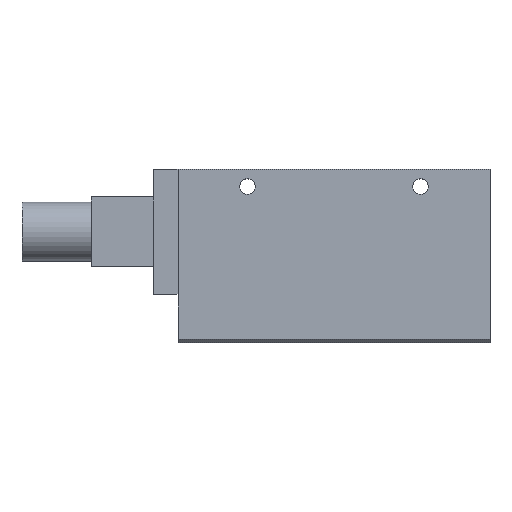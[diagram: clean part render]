
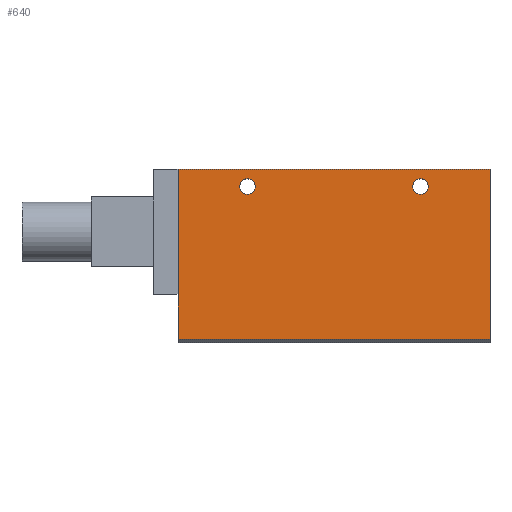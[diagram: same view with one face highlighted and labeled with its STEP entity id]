
A CAD part, top view. The second image highlights one B-rep face of the part: STEP entity #640.
In plain terms, the highlighted planar face has unit normal (0, 0, 1).
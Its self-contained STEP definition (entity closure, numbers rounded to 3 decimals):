
#26=FACE_BOUND('',#121,.T.);
#27=FACE_BOUND('',#122,.T.);
#36=PLANE('',#707);
#76=FACE_OUTER_BOUND('',#120,.T.);
#120=EDGE_LOOP('',(#494,#495,#496,#497));
#121=EDGE_LOOP('',(#498));
#122=EDGE_LOOP('',(#499));
#166=LINE('',#967,#241);
#169=LINE('',#973,#244);
#171=LINE('',#977,#246);
#172=LINE('',#978,#247);
#241=VECTOR('',#790,10.);
#244=VECTOR('',#795,10.);
#246=VECTOR('',#799,10.);
#247=VECTOR('',#800,10.);
#307=CIRCLE('',#698,2.25);
#309=CIRCLE('',#701,2.25);
#317=VERTEX_POINT('',#935);
#319=VERTEX_POINT('',#941);
#328=VERTEX_POINT('',#964);
#329=VERTEX_POINT('',#966);
#331=VERTEX_POINT('',#971);
#332=VERTEX_POINT('',#976);
#375=EDGE_CURVE('',#317,#317,#307,.T.);
#378=EDGE_CURVE('',#319,#319,#309,.T.);
#390=EDGE_CURVE('',#328,#329,#166,.T.);
#393=EDGE_CURVE('',#331,#328,#169,.T.);
#395=EDGE_CURVE('',#332,#331,#171,.T.);
#396=EDGE_CURVE('',#329,#332,#172,.T.);
#494=ORIENTED_EDGE('',*,*,#393,.F.);
#495=ORIENTED_EDGE('',*,*,#395,.F.);
#496=ORIENTED_EDGE('',*,*,#396,.F.);
#497=ORIENTED_EDGE('',*,*,#390,.F.);
#498=ORIENTED_EDGE('',*,*,#375,.T.);
#499=ORIENTED_EDGE('',*,*,#378,.T.);
#640=ADVANCED_FACE('',(#76,#26,#27),#36,.T.);
#698=AXIS2_PLACEMENT_3D('',#936,#763,#764);
#701=AXIS2_PLACEMENT_3D('',#942,#770,#771);
#707=AXIS2_PLACEMENT_3D('',#975,#797,#798);
#763=DIRECTION('center_axis',(0.,0.,-1.));
#764=DIRECTION('ref_axis',(1.,0.,0.));
#770=DIRECTION('center_axis',(0.,0.,-1.));
#771=DIRECTION('ref_axis',(1.,0.,0.));
#790=DIRECTION('',(0.,1.,0.));
#795=DIRECTION('',(-1.,0.,0.));
#797=DIRECTION('center_axis',(0.,0.,1.));
#798=DIRECTION('ref_axis',(0.,-1.,0.));
#799=DIRECTION('',(0.,-1.,0.));
#800=DIRECTION('',(1.,0.,0.));
#935=CARTESIAN_POINT('',(62.75,24.,6.));
#936=CARTESIAN_POINT('Origin',(65.,24.,6.));
#941=CARTESIAN_POINT('',(112.75,24.,6.));
#942=CARTESIAN_POINT('Origin',(115.,24.,6.));
#964=CARTESIAN_POINT('',(45.,-20.,6.));
#966=CARTESIAN_POINT('',(45.,29.,6.));
#967=CARTESIAN_POINT('',(45.,-21.,6.));
#971=CARTESIAN_POINT('',(135.,-20.,6.));
#973=CARTESIAN_POINT('',(45.,-20.,6.));
#975=CARTESIAN_POINT('Origin',(45.,29.,6.));
#976=CARTESIAN_POINT('',(135.,29.,6.));
#977=CARTESIAN_POINT('',(135.,-21.,6.));
#978=CARTESIAN_POINT('',(45.,29.,6.));
